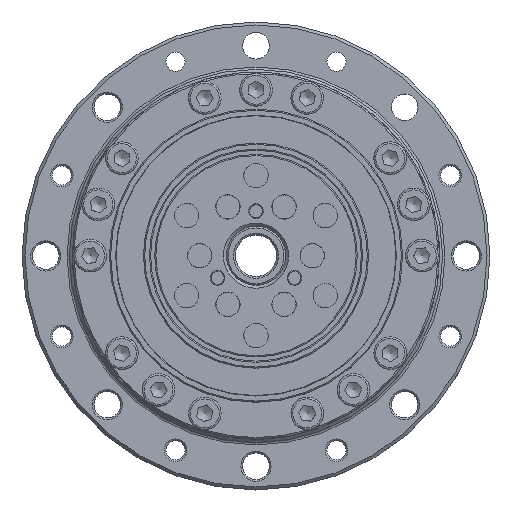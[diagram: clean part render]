
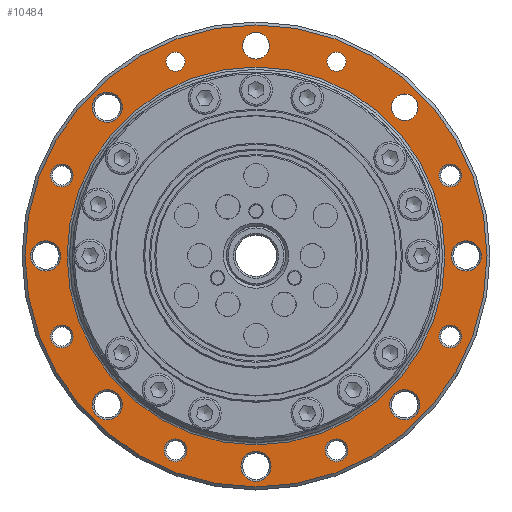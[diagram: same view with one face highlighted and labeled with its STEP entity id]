
A CAD part, top view. The second image highlights one B-rep face of the part: STEP entity #10484.
In plain terms, the highlighted planar face has unit normal (0, 0, 1).
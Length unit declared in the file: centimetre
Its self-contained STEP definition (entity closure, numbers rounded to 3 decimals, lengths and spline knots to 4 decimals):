
#1093=PLANE('',#11884);
#2333=FACE_BOUND('',#3881,.T.);
#2334=FACE_BOUND('',#3882,.T.);
#2335=FACE_BOUND('',#3883,.T.);
#2336=FACE_BOUND('',#3884,.T.);
#2337=FACE_BOUND('',#3885,.T.);
#2338=FACE_BOUND('',#3886,.T.);
#2339=FACE_BOUND('',#3887,.T.);
#2340=FACE_BOUND('',#3888,.T.);
#2341=FACE_BOUND('',#3889,.T.);
#2342=FACE_BOUND('',#3890,.T.);
#2343=FACE_BOUND('',#3891,.T.);
#2344=FACE_BOUND('',#3892,.T.);
#2345=FACE_BOUND('',#3893,.T.);
#2346=FACE_BOUND('',#3894,.T.);
#2347=FACE_BOUND('',#3895,.T.);
#2348=FACE_BOUND('',#3896,.T.);
#2349=FACE_BOUND('',#3897,.T.);
#2350=FACE_BOUND('',#3898,.T.);
#3881=EDGE_LOOP('',(#9149));
#3882=EDGE_LOOP('',(#9150));
#3883=EDGE_LOOP('',(#9151));
#3884=EDGE_LOOP('',(#9152));
#3885=EDGE_LOOP('',(#9153));
#3886=EDGE_LOOP('',(#9154));
#3887=EDGE_LOOP('',(#9155));
#3888=EDGE_LOOP('',(#9156));
#3889=EDGE_LOOP('',(#9157));
#3890=EDGE_LOOP('',(#9158));
#3891=EDGE_LOOP('',(#9159));
#3892=EDGE_LOOP('',(#9160));
#3893=EDGE_LOOP('',(#9161));
#3894=EDGE_LOOP('',(#9162));
#3895=EDGE_LOOP('',(#9163));
#3896=EDGE_LOOP('',(#9164));
#3897=EDGE_LOOP('',(#9165));
#3898=EDGE_LOOP('',(#9166));
#4844=CIRCLE('',#11761,3.19);
#4854=CIRCLE('',#11778,0.225);
#4856=CIRCLE('',#11781,0.225);
#4858=CIRCLE('',#11784,0.1621);
#4860=CIRCLE('',#11787,0.1621);
#4870=CIRCLE('',#11806,0.255);
#4874=CIRCLE('',#11813,0.1921);
#4896=CIRCLE('',#11847,0.255);
#4898=CIRCLE('',#11851,0.1921);
#4900=CIRCLE('',#11855,0.255);
#4902=CIRCLE('',#11859,0.1921);
#4904=CIRCLE('',#11863,0.255);
#4906=CIRCLE('',#11867,0.1921);
#4908=CIRCLE('',#11871,0.255);
#4910=CIRCLE('',#11875,0.1921);
#4912=CIRCLE('',#11879,0.255);
#4914=CIRCLE('',#11883,0.1921);
#4915=CIRCLE('',#11885,3.9);
#5626=VERTEX_POINT('',#17989);
#5636=VERTEX_POINT('',#18016);
#5638=VERTEX_POINT('',#18021);
#5640=VERTEX_POINT('',#18026);
#5642=VERTEX_POINT('',#18031);
#5652=VERTEX_POINT('',#18060);
#5656=VERTEX_POINT('',#18071);
#5678=VERTEX_POINT('',#18127);
#5680=VERTEX_POINT('',#18133);
#5682=VERTEX_POINT('',#18139);
#5684=VERTEX_POINT('',#18145);
#5686=VERTEX_POINT('',#18151);
#5688=VERTEX_POINT('',#18157);
#5690=VERTEX_POINT('',#18163);
#5692=VERTEX_POINT('',#18169);
#5694=VERTEX_POINT('',#18175);
#5696=VERTEX_POINT('',#18181);
#5697=VERTEX_POINT('',#18184);
#6824=EDGE_CURVE('',#5626,#5626,#4844,.T.);
#6834=EDGE_CURVE('',#5636,#5636,#4854,.T.);
#6836=EDGE_CURVE('',#5638,#5638,#4856,.T.);
#6838=EDGE_CURVE('',#5640,#5640,#4858,.T.);
#6840=EDGE_CURVE('',#5642,#5642,#4860,.T.);
#6850=EDGE_CURVE('',#5652,#5652,#4870,.T.);
#6854=EDGE_CURVE('',#5656,#5656,#4874,.T.);
#6876=EDGE_CURVE('',#5678,#5678,#4896,.T.);
#6878=EDGE_CURVE('',#5680,#5680,#4898,.T.);
#6880=EDGE_CURVE('',#5682,#5682,#4900,.T.);
#6882=EDGE_CURVE('',#5684,#5684,#4902,.T.);
#6884=EDGE_CURVE('',#5686,#5686,#4904,.T.);
#6886=EDGE_CURVE('',#5688,#5688,#4906,.T.);
#6888=EDGE_CURVE('',#5690,#5690,#4908,.T.);
#6890=EDGE_CURVE('',#5692,#5692,#4910,.T.);
#6892=EDGE_CURVE('',#5694,#5694,#4912,.T.);
#6894=EDGE_CURVE('',#5696,#5696,#4914,.T.);
#6895=EDGE_CURVE('',#5697,#5697,#4915,.T.);
#9149=ORIENTED_EDGE('',*,*,#6894,.F.);
#9150=ORIENTED_EDGE('',*,*,#6890,.F.);
#9151=ORIENTED_EDGE('',*,*,#6886,.F.);
#9152=ORIENTED_EDGE('',*,*,#6882,.F.);
#9153=ORIENTED_EDGE('',*,*,#6878,.F.);
#9154=ORIENTED_EDGE('',*,*,#6854,.F.);
#9155=ORIENTED_EDGE('',*,*,#6824,.F.);
#9156=ORIENTED_EDGE('',*,*,#6834,.T.);
#9157=ORIENTED_EDGE('',*,*,#6836,.T.);
#9158=ORIENTED_EDGE('',*,*,#6838,.T.);
#9159=ORIENTED_EDGE('',*,*,#6840,.T.);
#9160=ORIENTED_EDGE('',*,*,#6850,.F.);
#9161=ORIENTED_EDGE('',*,*,#6876,.F.);
#9162=ORIENTED_EDGE('',*,*,#6880,.F.);
#9163=ORIENTED_EDGE('',*,*,#6884,.F.);
#9164=ORIENTED_EDGE('',*,*,#6888,.F.);
#9165=ORIENTED_EDGE('',*,*,#6892,.F.);
#9166=ORIENTED_EDGE('',*,*,#6895,.F.);
#10484=ADVANCED_FACE('',(#2333,#2334,#2335,#2336,#2337,#2338,#2339,#2340,
#2341,#2342,#2343,#2344,#2345,#2346,#2347,#2348,#2349,#2350),#1093,.T.);
#11761=AXIS2_PLACEMENT_3D('',#17990,#14510,#14511);
#11778=AXIS2_PLACEMENT_3D('',#18017,#14544,#14545);
#11781=AXIS2_PLACEMENT_3D('',#18022,#14550,#14551);
#11784=AXIS2_PLACEMENT_3D('',#18027,#14556,#14557);
#11787=AXIS2_PLACEMENT_3D('',#18032,#14562,#14563);
#11806=AXIS2_PLACEMENT_3D('',#18061,#14600,#14601);
#11813=AXIS2_PLACEMENT_3D('',#18072,#14614,#14615);
#11847=AXIS2_PLACEMENT_3D('',#18128,#14682,#14683);
#11851=AXIS2_PLACEMENT_3D('',#18134,#14690,#14691);
#11855=AXIS2_PLACEMENT_3D('',#18140,#14698,#14699);
#11859=AXIS2_PLACEMENT_3D('',#18146,#14706,#14707);
#11863=AXIS2_PLACEMENT_3D('',#18152,#14714,#14715);
#11867=AXIS2_PLACEMENT_3D('',#18158,#14722,#14723);
#11871=AXIS2_PLACEMENT_3D('',#18164,#14730,#14731);
#11875=AXIS2_PLACEMENT_3D('',#18170,#14738,#14739);
#11879=AXIS2_PLACEMENT_3D('',#18176,#14746,#14747);
#11883=AXIS2_PLACEMENT_3D('',#18182,#14754,#14755);
#11884=AXIS2_PLACEMENT_3D('',#18183,#14756,#14757);
#11885=AXIS2_PLACEMENT_3D('',#18185,#14758,#14759);
#14510=DIRECTION('center_axis',(0.,0.,
1.));
#14511=DIRECTION('ref_axis',(0.,1.,0.));
#14544=DIRECTION('center_axis',(0.,0.,
-1.));
#14545=DIRECTION('ref_axis',(0.,1.,0.));
#14550=DIRECTION('center_axis',(0.,0.,
-1.));
#14551=DIRECTION('ref_axis',(0.,1.,0.));
#14556=DIRECTION('center_axis',(0.,0.,
-1.));
#14557=DIRECTION('ref_axis',(0.,1.,0.));
#14562=DIRECTION('center_axis',(0.,0.,
-1.));
#14563=DIRECTION('ref_axis',(0.,1.,0.));
#14600=DIRECTION('center_axis',(0.,0.,
1.));
#14601=DIRECTION('ref_axis',(0.,1.,0.));
#14614=DIRECTION('center_axis',(0.,0.,
1.));
#14615=DIRECTION('ref_axis',(0.,1.,0.));
#14682=DIRECTION('center_axis',(0.,0.,
1.));
#14683=DIRECTION('ref_axis',(0.,1.,0.));
#14690=DIRECTION('center_axis',(0.,0.,
1.));
#14691=DIRECTION('ref_axis',(0.,1.,0.));
#14698=DIRECTION('center_axis',(0.,0.,
1.));
#14699=DIRECTION('ref_axis',(0.,1.,0.));
#14706=DIRECTION('center_axis',(0.,0.,
1.));
#14707=DIRECTION('ref_axis',(0.,1.,0.));
#14714=DIRECTION('center_axis',(0.,0.,
1.));
#14715=DIRECTION('ref_axis',(0.,1.,0.));
#14722=DIRECTION('center_axis',(0.,0.,
1.));
#14723=DIRECTION('ref_axis',(0.,1.,0.));
#14730=DIRECTION('center_axis',(0.,0.,
1.));
#14731=DIRECTION('ref_axis',(0.,1.,0.));
#14738=DIRECTION('center_axis',(0.,0.,
1.));
#14739=DIRECTION('ref_axis',(0.,1.,0.));
#14746=DIRECTION('center_axis',(0.,0.,
1.));
#14747=DIRECTION('ref_axis',(0.,1.,0.));
#14754=DIRECTION('center_axis',(0.,0.,
1.));
#14755=DIRECTION('ref_axis',(0.,1.,0.));
#14756=DIRECTION('center_axis',(0.,0.,
1.));
#14757=DIRECTION('ref_axis',(0.,-1.,0.));
#14758=DIRECTION('center_axis',(0.,0.,
-1.));
#14759=DIRECTION('ref_axis',(-1.,0.,0.));
#17989=CARTESIAN_POINT('',(3.19,0.,-2.9));
#17990=CARTESIAN_POINT('Origin',(0.,0.,
-2.9));
#18016=CARTESIAN_POINT('',(0.,3.325,-2.9));
#18017=CARTESIAN_POINT('Origin',(0.,3.55,-2.9));
#18021=CARTESIAN_POINT('',(2.5102,2.2852,-2.9));
#18022=CARTESIAN_POINT('Origin',(2.5102,2.5102,-2.9));
#18026=CARTESIAN_POINT('',(-1.3585,3.1177,-2.9));
#18027=CARTESIAN_POINT('Origin',(-1.3585,3.2798,-2.9));
#18031=CARTESIAN_POINT('',(1.3585,3.1177,-2.9));
#18032=CARTESIAN_POINT('Origin',(1.3585,3.2798,-2.9));
#18060=CARTESIAN_POINT('',(3.55,-0.255,-2.9));
#18061=CARTESIAN_POINT('Origin',(3.55,0.,-2.9));
#18071=CARTESIAN_POINT('',(3.2798,1.1664,-2.9));
#18072=CARTESIAN_POINT('Origin',(3.2798,1.3585,-2.9));
#18127=CARTESIAN_POINT('',(-3.55,-0.255,-2.9));
#18128=CARTESIAN_POINT('Origin',(-3.55,0.,-2.9));
#18133=CARTESIAN_POINT('',(-3.2798,1.1664,-2.9));
#18134=CARTESIAN_POINT('Origin',(-3.2798,1.3585,-2.9));
#18139=CARTESIAN_POINT('',(-2.5102,2.2552,-2.9));
#18140=CARTESIAN_POINT('Origin',(-2.5102,2.5102,-2.9));
#18145=CARTESIAN_POINT('',(-3.2798,-1.5506,-2.9));
#18146=CARTESIAN_POINT('Origin',(-3.2798,-1.3585,-2.9));
#18151=CARTESIAN_POINT('',(-2.5102,-2.7652,-2.9));
#18152=CARTESIAN_POINT('Origin',(-2.5102,-2.5102,-2.9));
#18157=CARTESIAN_POINT('',(-1.3585,-3.4719,-2.9));
#18158=CARTESIAN_POINT('Origin',(-1.3585,-3.2798,-2.9));
#18163=CARTESIAN_POINT('',(0.,-3.805,-2.9));
#18164=CARTESIAN_POINT('Origin',(0.,-3.55,-2.9));
#18169=CARTESIAN_POINT('',(3.2798,-1.5506,-2.9));
#18170=CARTESIAN_POINT('Origin',(3.2798,-1.3585,-2.9));
#18175=CARTESIAN_POINT('',(2.5102,-2.7652,-2.9));
#18176=CARTESIAN_POINT('Origin',(2.5102,-2.5102,-2.9));
#18181=CARTESIAN_POINT('',(1.3585,-3.4719,-2.9));
#18182=CARTESIAN_POINT('Origin',(1.3585,-3.2798,-2.9));
#18183=CARTESIAN_POINT('Origin',(3.19,0.,-2.9));
#18184=CARTESIAN_POINT('',(3.9,0.,-2.9));
#18185=CARTESIAN_POINT('Origin',(0.,0.,
-2.9));
